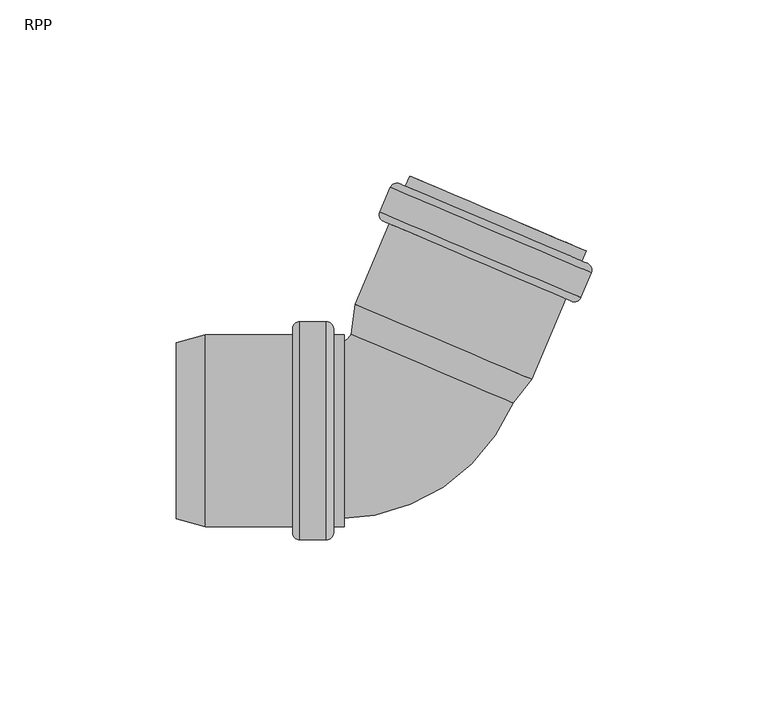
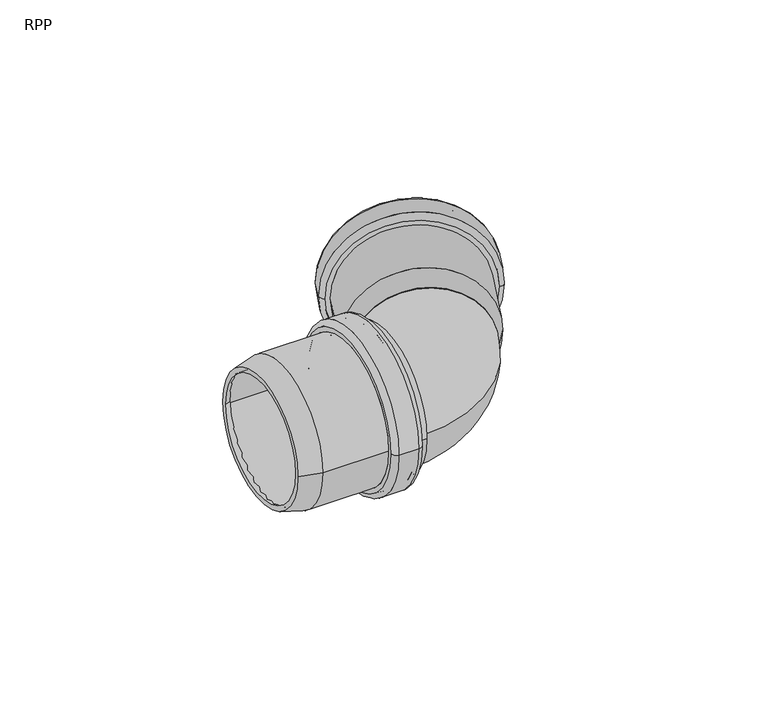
"""IFC4 building model written with IfcOpenShell, lengths in millimetres: pipe fitting geometry, RAUPIANO PLUS Bend : RPP."""

from ifc_helpers import new_model, si_unit, point, frame, origin, place, context, project, spatial, polyline, circle_curve, ellipse_curve, trimmed, source, transform, mapped, element, save
from ifc_brep_helpers import plane_surface, cylinder_surface, revolved_surface, advanced_brep


def rpp_47b7cab4(model_context):
    return source(origin(), model_context, "Body", "AdvancedBrep", [
        advanced_brep(
        [(-30.1946813, -25.3, 0.0), (-30.1946813, 25.3, 0.0), (-56.7340298, 25.3, 0.0), (-56.7340298, -25.3, 0.0), (-29.6946813, -29.1, 0.0), (-29.6946813, 29.1, 0.0), (-30.1946813, 28.6, 0.0), (-30.1946813, -28.6, 0.0), (-22.8946813, -29.1, 0.0), (-22.8946813, 29.1, 0.0), (-22.3946813, -28.6, 0.0), (-22.3946813, 28.6, 0.0), (-17.3946813, -25.3, 0.0), (-17.3946813, 25.3, 0.0), (-22.3946813, 25.3, 0.0), (-22.3946813, -25.3, 0.0), (-20.4946813, -27.2, 0.0), (-20.4946813, 27.2, 0.0), (-17.3946813, 27.2, 0.0), (-17.3946813, -27.2, 0.0), (-22.4946813, -31.0, 0.0), (-22.4946813, 31.0, 0.0), (-20.4946813, 29.0, 0.0), (-20.4946813, -29.0, 0.0), (-30.0946813, -31.0, 0.0), (-30.0946813, 31.0, 0.0), (-32.0946813, -29.0, 0.0), (-32.0946813, 29.0, 0.0), (-56.9841695, -27.2, 0.0), (-56.9841695, 27.2, 0.0), (-32.0946813, 27.2, 0.0), (-32.0946813, -27.2, 0.0), (-65.1946813, -25.0, 0.0), (-65.1946813, 25.0, 0.0), (-65.1946813, 23.0329753, 0.0), (-65.1946813, -23.0329753, 0.0)],
        [
            (0, 1, circle_curve(frame((-30.1946813, 0.0, 0.0), z_axis=(1.0, 0.0, 0.0), x_axis=(0.0, 1.0, 0.0)), 25.3)),
            (1, 2),
            (2, 3, circle_curve(frame((-56.7340298, 0.0, 0.0), z_axis=(-1.0, 0.0, 0.0), x_axis=(0.0, 1.0, 0.0)), 25.3)),
            (3, 0),
            (4, 5, circle_curve(frame((-29.6946813, 0.0, 0.0), z_axis=(1.0, 0.0, 0.0), x_axis=(0.0, 1.0, 0.0)), 29.1)),
            (5, 6, circle_curve(frame((-29.6946813, 28.6, 0.0), z_axis=(0.0, 0.0, 1.0), x_axis=(0.0, -1.0, 0.0)), 0.5)),
            (6, 7, circle_curve(frame((-30.1946813, 0.0, 0.0), z_axis=(-1.0, 0.0, 0.0), x_axis=(0.0, 1.0, 0.0)), 28.6)),
            (7, 4, circle_curve(frame((-29.6946813, -28.6, 0.0), z_axis=(0.0, 0.0, 1.0), x_axis=(0.0, 1.0, 0.0)), 0.5)),
            (8, 9, circle_curve(frame((-22.8946813, 0.0, 0.0), z_axis=(1.0, 0.0, 0.0), x_axis=(0.0, 1.0, 0.0)), 29.1)),
            (9, 5),
            (4, 8),
            (10, 11, circle_curve(frame((-22.3946813, 0.0, 0.0), z_axis=(1.0, 0.0, 0.0), x_axis=(0.0, 1.0, 0.0)), 28.6)),
            (11, 9, circle_curve(frame((-22.8946813, 28.6, 0.0), z_axis=(0.0, 0.0, 1.0), x_axis=(0.0, -1.0, 0.0)), 0.5)),
            (8, 10, circle_curve(frame((-22.8946813, -28.6, 0.0), z_axis=(0.0, 0.0, 1.0), x_axis=(0.0, 1.0, 0.0)), 0.5)),
            (12, 13, circle_curve(frame((-17.3946813, 0.0, 0.0), z_axis=(1.0, 0.0, 0.0), x_axis=(0.0, 1.0, 0.0)), 25.3)),
            (13, 14),
            (14, 15, circle_curve(frame((-22.3946813, 0.0, 0.0), z_axis=(-1.0, 0.0, 0.0), x_axis=(0.0, 1.0, 0.0)), 25.3)),
            (15, 12),
            (16, 17, circle_curve(frame((-20.4946813, 0.0, 0.0), z_axis=(1.0, 0.0, 0.0), x_axis=(0.0, 1.0, 0.0)), 27.2)),
            (17, 18),
            (18, 19, circle_curve(frame((-17.3946813, 0.0, 0.0), z_axis=(-1.0, 0.0, 0.0), x_axis=(0.0, 1.0, 0.0)), 27.2)),
            (19, 16),
            (20, 21, circle_curve(frame((-22.4946813, 0.0, 0.0), z_axis=(1.0, 0.0, 0.0), x_axis=(0.0, 1.0, 0.0)), 31.0)),
            (21, 22, circle_curve(frame((-22.4946813, 29.0, 0.0), z_axis=(0.0, 0.0, -1.0), x_axis=(0.0, -1.0, 0.0)), 2.0)),
            (22, 23, circle_curve(frame((-20.4946813, 0.0, 0.0), z_axis=(-1.0, 0.0, 0.0), x_axis=(0.0, 1.0, 0.0)), 29.0)),
            (23, 20, circle_curve(frame((-22.4946813, -29.0, 0.0), z_axis=(0.0, 0.0, -1.0), x_axis=(0.0, 1.0, 0.0)), 2.0)),
            (24, 25, circle_curve(frame((-30.0946813, 0.0, 0.0), z_axis=(1.0, 0.0, 0.0), x_axis=(0.0, 1.0, 0.0)), 31.0)),
            (25, 21),
            (20, 24),
            (26, 27, circle_curve(frame((-32.0946813, 0.0, 0.0), z_axis=(1.0, 0.0, 0.0), x_axis=(0.0, 1.0, 0.0)), 29.0)),
            (27, 25, circle_curve(frame((-30.0946813, 29.0, 0.0), z_axis=(0.0, 0.0, -1.0), x_axis=(0.0, -1.0, 0.0)), 2.0)),
            (24, 26, circle_curve(frame((-30.0946813, -29.0, 0.0), z_axis=(0.0, 0.0, -1.0), x_axis=(0.0, 1.0, 0.0)), 2.0)),
            (28, 29, circle_curve(frame((-56.9841695, 0.0, 0.0), z_axis=(1.0, 0.0, 0.0), x_axis=(0.0, 1.0, 0.0)), 27.2)),
            (29, 30),
            (30, 31, circle_curve(frame((-32.0946813, 0.0, 0.0), z_axis=(-1.0, 0.0, 0.0), x_axis=(0.0, 1.0, 0.0)), 27.2)),
            (31, 28),
            (32, 33, circle_curve(frame((-65.1946813, 0.0, 0.0), z_axis=(1.0, 0.0, 0.0), x_axis=(0.0, 1.0, 0.0)), 25.0)),
            (33, 29),
            (28, 32),
            (2, 34),
            (34, 35, circle_curve(frame((-65.1946813, 0.0, 0.0), z_axis=(-1.0, 0.0, 0.0), x_axis=(0.0, 1.0, 0.0)), 23.0329753)),
            (35, 3),
            (1, 0, circle_curve(frame((-30.1946813, 0.0, 0.0), z_axis=(1.0, 0.0, 0.0), x_axis=(0.0, -1.0, 0.0)), 25.3)),
            (3, 2, circle_curve(frame((-56.7340298, 0.0, 0.0), z_axis=(-1.0, 0.0, 0.0), x_axis=(0.0, -1.0, 0.0)), 25.3)),
            (6, 7, circle_curve(frame((-30.1946813, 0.0, 0.0), z_axis=(1.0, 0.0, 0.0), x_axis=(0.0, -1.0, 0.0)), 28.6)),
            (5, 4, circle_curve(frame((-29.6946813, 0.0, 0.0), z_axis=(1.0, 0.0, 0.0), x_axis=(0.0, -1.0, 0.0)), 29.1)),
            (9, 8, circle_curve(frame((-22.8946813, 0.0, 0.0), z_axis=(1.0, 0.0, 0.0), x_axis=(0.0, -1.0, 0.0)), 29.1)),
            (11, 10, circle_curve(frame((-22.3946813, 0.0, 0.0), z_axis=(1.0, 0.0, 0.0), x_axis=(0.0, -1.0, 0.0)), 28.6)),
            (14, 15, circle_curve(frame((-22.3946813, 0.0, 0.0), z_axis=(1.0, 0.0, 0.0), x_axis=(0.0, -1.0, 0.0)), 25.3)),
            (13, 12, circle_curve(frame((-17.3946813, 0.0, 0.0), z_axis=(1.0, 0.0, 0.0), x_axis=(0.0, -1.0, 0.0)), 25.3)),
            (18, 19, circle_curve(frame((-17.3946813, 0.0, 0.0), z_axis=(1.0, 0.0, 0.0), x_axis=(0.0, -1.0, 0.0)), 27.2)),
            (17, 16, circle_curve(frame((-20.4946813, 0.0, 0.0), z_axis=(1.0, 0.0, 0.0), x_axis=(0.0, -1.0, 0.0)), 27.2)),
            (22, 23, circle_curve(frame((-20.4946813, 0.0, 0.0), z_axis=(1.0, 0.0, 0.0), x_axis=(0.0, -1.0, 0.0)), 29.0)),
            (21, 20, circle_curve(frame((-22.4946813, 0.0, 0.0), z_axis=(1.0, 0.0, 0.0), x_axis=(0.0, -1.0, 0.0)), 31.0)),
            (25, 24, circle_curve(frame((-30.0946813, 0.0, 0.0), z_axis=(1.0, 0.0, 0.0), x_axis=(0.0, -1.0, 0.0)), 31.0)),
            (27, 26, circle_curve(frame((-32.0946813, 0.0, 0.0), z_axis=(1.0, 0.0, 0.0), x_axis=(0.0, -1.0, 0.0)), 29.0)),
            (30, 31, circle_curve(frame((-32.0946813, 0.0, 0.0), z_axis=(1.0, 0.0, 0.0), x_axis=(0.0, -1.0, 0.0)), 27.2)),
            (29, 28, circle_curve(frame((-56.9841695, 0.0, 0.0), z_axis=(1.0, 0.0, 0.0), x_axis=(0.0, -1.0, 0.0)), 27.2)),
            (33, 32, circle_curve(frame((-65.1946813, 0.0, 0.0), z_axis=(1.0, 0.0, 0.0), x_axis=(0.0, -1.0, 0.0)), 25.0)),
            (34, 35, circle_curve(frame((-65.1946813, 0.0, 0.0), z_axis=(1.0, 0.0, 0.0), x_axis=(0.0, -1.0, 0.0)), 23.0329753)),
        ],
        [
            revolved_surface(polyline([(-56.7340298, 25.3, 0.0), (-30.1946813, 25.3, 0.0)]), (-65.1946813, 0.0, 0.0), (-1.0, 0.0, 0.0)),
            revolved_surface(trimmed(ellipse_curve(frame((-29.6946813, 28.6, 0.0), z_axis=(0.0, 0.0, -1.0), x_axis=(0.0, -1.0, 0.0)), 0.5, 0.5), [point((-30.1946813, 28.6, 0.0))], [point((-29.6946813, 29.1, 0.0))], True, "CARTESIAN"), (-65.1946813, 0.0, 0.0), (-1.0, 0.0, 0.0)),
            revolved_surface(polyline([(-29.6946813, 29.1, 0.0), (-22.894681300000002, 29.1, 0.0)]), (-65.1946813, 0.0, 0.0), (-1.0, 0.0, 0.0)),
            revolved_surface(trimmed(ellipse_curve(frame((-22.8946813, 28.6, 0.0), z_axis=(0.0, 0.0, -1.0), x_axis=(0.0, -1.0, 0.0)), 0.5, 0.5), [point((-22.8946813, 29.1, 0.0))], [point((-22.3946813, 28.6, 0.0))], True, "CARTESIAN"), (-65.1946813, 0.0, 0.0), (-1.0, 0.0, 0.0)),
            revolved_surface(polyline([(-22.394681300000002, 25.3, 0.0), (-17.394681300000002, 25.3, 0.0)]), (-65.1946813, 0.0, 0.0), (-1.0, 0.0, 0.0)),
            cylinder_surface(frame((-65.1946813, 0.0, 0.0), z_axis=(-1.0, 0.0, 0.0), x_axis=(0.0, 1.0, 0.0)), 27.2),
            revolved_surface(trimmed(ellipse_curve(frame((-22.4946813, 29.0, 0.0), z_axis=(0.0, 0.0, 1.0), x_axis=(0.0, -1.0, 0.0)), 2.0, 2.0), [point((-20.4946813, 29.0, 0.0))], [point((-22.4946813, 31.0, 0.0))], True, "CARTESIAN"), (-65.1946813, 0.0, 0.0), (-1.0, 0.0, 0.0)),
            cylinder_surface(frame((-65.1946813, 0.0, 0.0), z_axis=(-1.0, 0.0, 0.0), x_axis=(0.0, 1.0, 0.0)), 31.0),
            revolved_surface(trimmed(ellipse_curve(frame((-30.0946813, 29.0, 0.0), z_axis=(0.0, 0.0, 1.0), x_axis=(0.0, -1.0, 0.0)), 2.0, 2.0), [point((-30.0946813, 31.0, 0.0))], [point((-32.0946813, 29.0, 0.0))], True, "CARTESIAN"), (-65.1946813, 0.0, 0.0), (-1.0, 0.0, 0.0)),
            revolved_surface(polyline([(-56.9841695, 27.2, 0.0), (-65.1946813, 25.0, 0.0)]), (-65.1946813, 0.0, 0.0), (-1.0, 0.0, 0.0)),
            revolved_surface(polyline([(-65.1946813, 23.0329753, 0.0), (-56.7340298, 25.3, 0.0)]), (-65.1946813, 0.0, 0.0), (-1.0, 0.0, 0.0)),
            revolved_surface(polyline([(-56.7340298, -25.3, 0.0), (-30.1946813, -25.3, 0.0)]), (-65.1946813, 0.0, 0.0), (-1.0, 0.0, 0.0)),
            plane_surface(frame((-30.1946813, 0.0, 0.0), z_axis=(1.0, 0.0, 0.0), x_axis=(0.0, -1.0, 0.0))),
            revolved_surface(trimmed(ellipse_curve(frame((-29.6946813, -28.6, 0.0), z_axis=(0.0, 0.0, 1.0), x_axis=(0.0, 1.0, 0.0)), 0.5, 0.5), [point((-30.1946813, -28.6, 0.0))], [point((-29.6946813, -29.1, 0.0))], True, "CARTESIAN"), (-65.1946813, 0.0, 0.0), (-1.0, 0.0, 0.0)),
            revolved_surface(polyline([(-29.6946813, -29.1, 0.0), (-22.894681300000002, -29.1, 0.0)]), (-65.1946813, 0.0, 0.0), (-1.0, 0.0, 0.0)),
            revolved_surface(trimmed(ellipse_curve(frame((-22.8946813, -28.6, 0.0), z_axis=(0.0, 0.0, 1.0), x_axis=(0.0, 1.0, 0.0)), 0.5, 0.5), [point((-22.8946813, -29.1, 0.0))], [point((-22.3946813, -28.6, 0.0))], True, "CARTESIAN"), (-65.1946813, 0.0, 0.0), (-1.0, 0.0, 0.0)),
            plane_surface(frame((-22.3946813, 0.0, 0.0), z_axis=(-1.0, 0.0, 0.0), x_axis=(0.0, -1.0, 0.0))),
            revolved_surface(polyline([(-22.394681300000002, -25.3, 0.0), (-17.394681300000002, -25.3, 0.0)]), (-65.1946813, 0.0, 0.0), (-1.0, 0.0, 0.0)),
            plane_surface(frame((-17.3946813, 0.0, 0.0), z_axis=(1.0, 0.0, 0.0), x_axis=(0.0, -1.0, 0.0))),
            cylinder_surface(frame((-65.1946813, 0.0, 0.0), z_axis=(-1.0, 0.0, 0.0), x_axis=(0.0, -1.0, 0.0)), 27.2),
            plane_surface(frame((-20.4946813, 0.0, 0.0), z_axis=(1.0, 0.0, 0.0), x_axis=(0.0, -1.0, 0.0))),
            revolved_surface(trimmed(ellipse_curve(frame((-22.4946813, -29.0, 0.0), z_axis=(0.0, 0.0, -1.0), x_axis=(0.0, 1.0, 0.0)), 2.0, 2.0), [point((-20.4946813, -29.0, 0.0))], [point((-22.4946813, -31.0, 0.0))], True, "CARTESIAN"), (-65.1946813, 0.0, 0.0), (-1.0, 0.0, 0.0)),
            cylinder_surface(frame((-65.1946813, 0.0, 0.0), z_axis=(-1.0, 0.0, 0.0), x_axis=(0.0, -1.0, 0.0)), 31.0),
            revolved_surface(trimmed(ellipse_curve(frame((-30.0946813, -29.0, 0.0), z_axis=(0.0, 0.0, -1.0), x_axis=(0.0, 1.0, 0.0)), 2.0, 2.0), [point((-30.0946813, -31.0, 0.0))], [point((-32.0946813, -29.0, 0.0))], True, "CARTESIAN"), (-65.1946813, 0.0, 0.0), (-1.0, 0.0, 0.0)),
            plane_surface(frame((-32.0946813, 0.0, 0.0), z_axis=(-1.0, 0.0, 0.0), x_axis=(0.0, -1.0, 0.0))),
            revolved_surface(polyline([(-56.9841695, -27.2, 0.0), (-65.1946813, -25.0, 0.0)]), (-65.1946813, 0.0, 0.0), (-1.0, 0.0, 0.0)),
            plane_surface(frame((-65.1946813, 0.0, 0.0), z_axis=(-1.0, 0.0, 0.0), x_axis=(0.0, -1.0, 0.0))),
            revolved_surface(polyline([(-65.1946813, -23.0329753, 0.0), (-56.7340298, -25.3, 0.0)]), (-65.1946813, 0.0, 0.0), (-1.0, 0.0, 0.0)),
        ],
        [
            (0, [[1, 2, 3, 4]]),
            (1, [[5, 6, 7, 8]]),
            (2, [[9, 10, -5, 11]]),
            (3, [[12, 13, -9, 14]]),
            (4, [[15, 16, 17, 18]]),
            (5, [[19, 20, 21, 22]]),
            (6, [[23, 24, 25, 26]]),
            (7, [[27, 28, -23, 29]]),
            (8, [[30, 31, -27, 32]]),
            (5, [[33, 34, 35, 36]]),
            (9, [[37, 38, -33, 39]]),
            (10, [[-3, 40, 41, 42]]),
            (11, [[43, -4, 44, -2]]),
            (12, [[45, -7], [-43, -1]]),
            (13, [[46, -8, -45, -6]]),
            (14, [[47, -11, -46, -10]]),
            (15, [[48, -14, -47, -13]]),
            (16, [[-48, -12], [49, -17]]),
            (17, [[50, -18, -49, -16]]),
            (18, [[51, -21], [-50, -15]]),
            (19, [[52, -22, -51, -20]]),
            (20, [[53, -25], [-52, -19]]),
            (21, [[54, -26, -53, -24]]),
            (22, [[55, -29, -54, -28]]),
            (23, [[56, -32, -55, -31]]),
            (24, [[-56, -30], [57, -35]]),
            (19, [[58, -36, -57, -34]]),
            (25, [[59, -39, -58, -38]]),
            (26, [[-59, -37], [60, -41]]),
            (27, [[-44, -42, -60, -40]]),
        ],
    ),
        advanced_brep(
        [(28.701925, 8.6690969, 0.0), (-13.702006, 26.6684977, 0.0), (-12.4829734, 35.3423656, 0.0), (34.0945722, 15.5713705, 0.0), (35.745794, 14.5987265, 0.0), (-14.32967, 35.8544999, 0.0), (-15.5126619, 27.4370755, 0.0), (30.5125808, 7.9005191, 0.0), (45.4708918, 37.5096212, 0.0), (-4.6045722, 58.7653946, 0.0), (52.7198291, 44.8616895, 0.0), (-4.3514718, 69.0870195, 0.0), (-7.3210284, 62.0911826, 0.0), (49.7502725, 37.8658526, 0.0), (51.2146394, 51.0410426, 0.0), (1.1391754, 72.296816, 0.0), (-0.0720911, 69.4432509, 0.0), (50.0033729, 48.1874775, 0.0), (47.5120246, 47.1809075, 0.0), (0.934479, 66.9519026, 0.0), (2.8881346, 71.5544268, 0.0), (49.4656802, 51.7834317, 0.0), (48.1576058, 38.9764437, 0.0), (-5.4157767, 61.7169954, 0.0), (-2.758805, 67.9764284, 0.0), (50.8145774, 45.2358767, 0.0), (-2.1132238, 59.7719647, 0.0), (44.4643218, 40.0009696, 0.0), (-6.2614809, 59.4687106, 0.0), (47.1278006, 36.8063052, 0.0), (51.6602817, 47.4841615, 0.0), (-1.7289998, 70.1465669, 0.0), (-2.103187, 68.2413153, 0.0), (50.5496906, 45.8914947, 0.0), (47.5019878, 38.7115569, 0.0), (-5.1508898, 61.0613774, 0.0)],
        [
            (0, 1, circle_curve(frame((7.4999595, 17.6687973, 0.0), z_axis=(-0.39073112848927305, -0.9205048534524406, 0.0), x_axis=(-0.9205048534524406, 0.39073112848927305, 0.0)), 23.0329753)),
            (1, 2),
            (2, 3, circle_curve(frame((10.8057994, 25.4568681, 0.0), z_axis=(0.39073112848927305, 0.9205048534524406, 0.0), x_axis=(-0.9205048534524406, 0.39073112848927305, 0.0)), 25.3)),
            (3, 0),
            (4, 5, circle_curve(frame((10.708062, 25.2266132, 0.0), z_axis=(-0.39073112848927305, -0.9205048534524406, 0.0), x_axis=(-0.9205048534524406, 0.39073112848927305, 0.0)), 27.2)),
            (5, 6),
            (6, 7, circle_curve(frame((7.4999595, 17.6687973, 0.0), z_axis=(0.39073112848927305, 0.9205048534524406, 0.0), x_axis=(-0.9205048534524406, 0.39073112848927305, 0.0)), 25.0)),
            (7, 4),
            (8, 9, circle_curve(frame((20.4331598, 48.1375079, 0.0), z_axis=(-0.39073112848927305, -0.9205048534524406, 0.0), x_axis=(-0.9205048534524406, 0.39073112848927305, 0.0)), 27.2)),
            (9, 5),
            (4, 8),
            (10, 11, circle_curve(frame((24.1841787, 56.9743545, 0.0), z_axis=(-0.39073112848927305, -0.9205048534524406, 0.0), x_axis=(-0.9205048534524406, 0.39073112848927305, 0.0)), 31.0)),
            (11, 12),
            (12, 13, circle_curve(frame((21.2146221, 49.9785176, 0.0), z_axis=(0.39073112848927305, 0.9205048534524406, 0.0), x_axis=(-0.9205048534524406, 0.39073112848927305, 0.0)), 31.0)),
            (13, 10),
            (14, 15, circle_curve(frame((26.1769074, 61.6689293, 0.0), z_axis=(-0.39073112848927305, -0.9205048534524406, 0.0), x_axis=(-0.9205048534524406, 0.39073112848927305, 0.0)), 27.2)),
            (15, 16),
            (16, 17, circle_curve(frame((24.9656409, 58.8153642, 0.0), z_axis=(0.39073112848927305, 0.9205048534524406, 0.0), x_axis=(-0.9205048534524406, 0.39073112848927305, 0.0)), 27.2)),
            (17, 14),
            (18, 19, circle_curve(frame((24.2232518, 57.066405, 0.0), z_axis=(-0.39073112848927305, -0.9205048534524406, 0.0), x_axis=(-0.9205048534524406, 0.39073112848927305, 0.0)), 25.3)),
            (19, 20),
            (20, 21, circle_curve(frame((26.1769074, 61.6689293, 0.0), z_axis=(0.39073112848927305, 0.9205048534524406, 0.0), x_axis=(-0.9205048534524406, 0.39073112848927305, 0.0)), 25.3)),
            (21, 18),
            (22, 23, circle_curve(frame((21.3709145, 50.3467196, 0.0), z_axis=(-0.39073112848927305, -0.9205048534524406, 0.0), x_axis=(-0.9205048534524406, 0.39073112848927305, 0.0)), 29.1)),
            (23, 24),
            (24, 25, circle_curve(frame((24.0278862, 56.6061526, 0.0), z_axis=(0.39073112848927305, 0.9205048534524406, 0.0), x_axis=(-0.9205048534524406, 0.39073112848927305, 0.0)), 29.1)),
            (25, 22),
            (2, 26),
            (26, 27, circle_curve(frame((21.175549, 49.8864671, 0.0), z_axis=(0.39073112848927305, 0.9205048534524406, 0.0), x_axis=(-0.9205048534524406, 0.39073112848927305, 0.0)), 25.3)),
            (27, 3),
            (1, 0, circle_curve(frame((7.4999595, 17.6687973, 0.0), z_axis=(-0.39073112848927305, -0.9205048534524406, 0.0), x_axis=(0.9205048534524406, -0.39073112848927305, 0.0)), 23.0329753)),
            (3, 2, circle_curve(frame((10.8057994, 25.4568681, 0.0), z_axis=(0.39073112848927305, 0.9205048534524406, 0.0), x_axis=(0.9205048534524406, -0.39073112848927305, 0.0)), 25.3)),
            (6, 7, circle_curve(frame((7.4999595, 17.6687973, 0.0), z_axis=(-0.39073112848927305, -0.9205048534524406, 0.0), x_axis=(0.9205048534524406, -0.39073112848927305, 0.0)), 25.0)),
            (5, 4, circle_curve(frame((10.708062, 25.2266132, 0.0), z_axis=(-0.39073112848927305, -0.9205048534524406, 0.0), x_axis=(0.9205048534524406, -0.39073112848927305, 0.0)), 27.2)),
            (9, 8, circle_curve(frame((20.4331598, 48.1375079, 0.0), z_axis=(-0.39073112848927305, -0.9205048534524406, 0.0), x_axis=(0.9205048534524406, -0.39073112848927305, 0.0)), 27.2)),
            (28, 29, circle_curve(frame((20.4331598, 48.1375079, 0.0), z_axis=(-0.39073112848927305, -0.9205048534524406, 0.0), x_axis=(0.9205048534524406, -0.39073112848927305, 0.0)), 29.0)),
            (29, 28, circle_curve(frame((20.4331598, 48.1375079, 0.0), z_axis=(-0.39073112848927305, -0.9205048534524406, 0.0), x_axis=(-0.9205048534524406, 0.39073112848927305, 0.0)), 29.0)),
            (11, 10, circle_curve(frame((24.1841787, 56.9743545, 0.0), z_axis=(-0.39073112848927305, -0.9205048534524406, 0.0), x_axis=(0.9205048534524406, -0.39073112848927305, 0.0)), 31.0)),
            (13, 12, circle_curve(frame((21.2146221, 49.9785176, 0.0), z_axis=(0.39073112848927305, 0.9205048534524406, 0.0), x_axis=(0.9205048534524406, -0.39073112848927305, 0.0)), 31.0)),
            (30, 31, circle_curve(frame((24.9656409, 58.8153642, 0.0), z_axis=(0.39073112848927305, 0.9205048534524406, 0.0), x_axis=(0.9205048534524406, -0.39073112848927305, 0.0)), 29.0)),
            (31, 30, circle_curve(frame((24.9656409, 58.8153642, 0.0), z_axis=(0.39073112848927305, 0.9205048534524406, 0.0), x_axis=(-0.9205048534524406, 0.39073112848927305, 0.0)), 29.0)),
            (16, 17, circle_curve(frame((24.9656409, 58.8153642, 0.0), z_axis=(-0.39073112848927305, -0.9205048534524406, 0.0), x_axis=(0.9205048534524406, -0.39073112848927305, 0.0)), 27.2)),
            (15, 14, circle_curve(frame((26.1769074, 61.6689293, 0.0), z_axis=(-0.39073112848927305, -0.9205048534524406, 0.0), x_axis=(0.9205048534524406, -0.39073112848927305, 0.0)), 27.2)),
            (20, 21, circle_curve(frame((26.1769074, 61.6689293, 0.0), z_axis=(-0.39073112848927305, -0.9205048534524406, 0.0), x_axis=(0.9205048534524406, -0.39073112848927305, 0.0)), 25.3)),
            (19, 18, circle_curve(frame((24.2232518, 57.066405, 0.0), z_axis=(-0.39073112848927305, -0.9205048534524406, 0.0), x_axis=(0.9205048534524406, -0.39073112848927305, 0.0)), 25.3)),
            (32, 33, circle_curve(frame((24.2232518, 57.066405, 0.0), z_axis=(-0.39073112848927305, -0.9205048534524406, 0.0), x_axis=(0.9205048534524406, -0.39073112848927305, 0.0)), 28.6)),
            (33, 32, circle_curve(frame((24.2232518, 57.066405, 0.0), z_axis=(-0.39073112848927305, -0.9205048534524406, 0.0), x_axis=(-0.9205048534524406, 0.39073112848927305, 0.0)), 28.6)),
            (23, 22, circle_curve(frame((21.3709145, 50.3467196, 0.0), z_axis=(-0.39073112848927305, -0.9205048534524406, 0.0), x_axis=(0.9205048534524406, -0.39073112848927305, 0.0)), 29.1)),
            (25, 24, circle_curve(frame((24.0278862, 56.6061526, 0.0), z_axis=(0.39073112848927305, 0.9205048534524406, 0.0), x_axis=(0.9205048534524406, -0.39073112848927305, 0.0)), 29.1)),
            (34, 35, circle_curve(frame((21.175549, 49.8864671, 0.0), z_axis=(0.39073112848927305, 0.9205048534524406, 0.0), x_axis=(0.9205048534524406, -0.39073112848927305, 0.0)), 28.6)),
            (35, 34, circle_curve(frame((21.175549, 49.8864671, 0.0), z_axis=(0.39073112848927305, 0.9205048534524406, 0.0), x_axis=(-0.9205048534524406, 0.39073112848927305, 0.0)), 28.6)),
            (26, 27, circle_curve(frame((21.175549, 49.8864671, 0.0), z_axis=(-0.39073112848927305, -0.9205048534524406, 0.0), x_axis=(0.9205048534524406, -0.39073112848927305, 0.0)), 25.3)),
            (12, 28, circle_curve(frame((-5.4800187, 61.3097204, 0.0), z_axis=(0.0, 0.0, 1.0), x_axis=(0.9205048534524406, -0.39073112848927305, 0.0)), 2.0)),
            (29, 13, circle_curve(frame((47.9092628, 38.6473149, 0.0), z_axis=(0.0, 0.0, 1.0), x_axis=(-0.9205048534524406, 0.39073112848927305, 0.0)), 2.0)),
            (31, 11, circle_curve(frame((-2.5104621, 68.3055572, 0.0), z_axis=(0.0, 0.0, 1.0), x_axis=(0.9205048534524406, -0.39073112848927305, 0.0)), 2.0)),
            (10, 30, circle_curve(frame((50.8788194, 45.6431518, 0.0), z_axis=(0.0, 0.0, 1.0), x_axis=(-0.9205048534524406, 0.39073112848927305, 0.0)), 2.0)),
            (24, 32, circle_curve(frame((-2.2985526, 67.7810628, 0.0), z_axis=(0.0, 0.0, -1.0), x_axis=(0.9205048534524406, -0.39073112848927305, 0.0)), 0.5)),
            (33, 25, circle_curve(frame((50.354325, 45.4312423, 0.0), z_axis=(0.0, 0.0, -1.0), x_axis=(-0.9205048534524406, 0.39073112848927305, 0.0)), 0.5)),
            (35, 23, circle_curve(frame((-4.9555243, 61.5216298, 0.0), z_axis=(0.0, 0.0, -1.0), x_axis=(0.9205048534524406, -0.39073112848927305, 0.0)), 0.5)),
            (22, 34, circle_curve(frame((47.6973533, 39.1718093, 0.0), z_axis=(0.0, 0.0, -1.0), x_axis=(-0.9205048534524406, 0.39073112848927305, 0.0)), 0.5)),
        ],
        [
            revolved_surface(polyline([(-12.4829734, 35.3423656, 0.0), (-13.702006, 26.6684977, 0.0)]), (7.4999595, 17.6687973, 0.0), (0.39073112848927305, 0.9205048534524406, 0.0)),
            revolved_surface(polyline([(-15.5126619, 27.4370755, 0.0), (-14.32967, 35.8544999, 0.0)]), (7.4999595, 17.6687973, 0.0), (0.39073112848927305, 0.9205048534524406, 0.0)),
            cylinder_surface(frame((7.4999595, 17.6687973, 0.0), z_axis=(0.39073112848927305, 0.9205048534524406, 0.0), x_axis=(-0.9205048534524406, 0.39073112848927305, 0.0)), 27.2),
            cylinder_surface(frame((7.4999595, 17.6687973, 0.0), z_axis=(0.39073112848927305, 0.9205048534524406, 0.0), x_axis=(-0.9205048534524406, 0.39073112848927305, 0.0)), 31.0),
            revolved_surface(polyline([(2.8881346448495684, 71.5544268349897, 0.0), (0.9344789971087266, 66.95190255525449, 0.0)]), (7.4999595, 17.6687973, 0.0), (0.39073112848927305, 0.9205048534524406, 0.0)),
            revolved_surface(polyline([(-2.758805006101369, 67.97642842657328, 0.0), (-5.41577669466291, 61.716995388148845, 0.0)]), (7.4999595, 17.6687973, 0.0), (0.39073112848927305, 0.9205048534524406, 0.0)),
            revolved_surface(polyline([(-2.113223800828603, 59.77196470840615, 0.0), (-12.482973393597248, 35.342365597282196, 0.0)]), (7.4999595, 17.6687973, 0.0), (0.39073112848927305, 0.9205048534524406, 0.0)),
            revolved_surface(polyline([(34.0945722, 15.5713705, 0.0), (28.701925, 8.6690969, 0.0)]), (7.4999595, 17.6687973, 0.0), (0.39073112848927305, 0.9205048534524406, 0.0)),
            plane_surface(frame((7.4999595, 17.6687973, 0.0), z_axis=(-0.39073112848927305, -0.9205048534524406, 0.0), x_axis=(0.9205048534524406, -0.39073112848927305, 0.0))),
            revolved_surface(polyline([(30.5125808, 7.9005191, 0.0), (35.745794, 14.5987265, 0.0)]), (7.4999595, 17.6687973, 0.0), (0.39073112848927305, 0.9205048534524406, 0.0)),
            cylinder_surface(frame((7.4999595, 17.6687973, 0.0), z_axis=(0.39073112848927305, 0.9205048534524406, 0.0), x_axis=(0.9205048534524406, -0.39073112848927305, 0.0)), 27.2),
            plane_surface(frame((20.4331598, 48.1375079, 0.0), z_axis=(-0.39073112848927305, -0.9205048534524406, 0.0), x_axis=(0.9205048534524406, -0.39073112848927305, 0.0))),
            cylinder_surface(frame((7.4999595, 17.6687973, 0.0), z_axis=(0.39073112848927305, 0.9205048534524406, 0.0), x_axis=(0.9205048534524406, -0.39073112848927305, 0.0)), 31.0),
            plane_surface(frame((24.9656409, 58.8153642, 0.0), z_axis=(0.39073112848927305, 0.9205048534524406, 0.0), x_axis=(0.9205048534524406, -0.39073112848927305, 0.0))),
            plane_surface(frame((26.1769074, 61.6689293, 0.0), z_axis=(0.39073112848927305, 0.9205048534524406, 0.0), x_axis=(0.9205048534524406, -0.39073112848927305, 0.0))),
            revolved_surface(polyline([(49.46568022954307, 51.78343173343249, 0.0), (47.51202458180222, 47.18090745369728, 0.0)]), (7.4999595, 17.6687973, 0.0), (0.39073112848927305, 0.9205048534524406, 0.0)),
            plane_surface(frame((24.2232518, 57.066405, 0.0), z_axis=(-0.39073112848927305, -0.9205048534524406, 0.0), x_axis=(0.9205048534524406, -0.39073112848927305, 0.0))),
            revolved_surface(polyline([(50.81457746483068, 45.235876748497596, 0.0), (48.157605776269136, 38.976443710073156, 0.0)]), (7.4999595, 17.6687973, 0.0), (0.39073112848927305, 0.9205048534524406, 0.0)),
            plane_surface(frame((21.175549, 49.8864671, 0.0), z_axis=(0.39073112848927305, 0.9205048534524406, 0.0), x_axis=(0.9205048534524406, -0.39073112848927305, 0.0))),
            revolved_surface(polyline([(44.46432178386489, 40.00096960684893, 0.0), (34.09457219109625, 15.571370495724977, 0.0)]), (7.4999595, 17.6687973, 0.0), (0.39073112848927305, 0.9205048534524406, 0.0)),
            revolved_surface(trimmed(ellipse_curve(frame((-5.4800187, 61.3097204, 0.0), z_axis=(0.0, 0.0, -1.0), x_axis=(0.9205048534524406, -0.39073112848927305, 0.0)), 2.0, 2.0), [point((-6.2614809, 59.4687106, 0.0))], [point((-7.3210284, 62.0911826, 0.0))], True, "CARTESIAN"), (7.4999595, 17.6687973, 0.0), (0.39073112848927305, 0.9205048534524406, 0.0)),
            revolved_surface(trimmed(ellipse_curve(frame((-2.5104621, 68.3055572, 0.0), z_axis=(0.0, 0.0, -1.0), x_axis=(0.9205048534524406, -0.39073112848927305, 0.0)), 2.0, 2.0), [point((-4.3514718, 69.0870195, 0.0))], [point((-1.7289998, 70.1465669, 0.0))], True, "CARTESIAN"), (7.4999595, 17.6687973, 0.0), (0.39073112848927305, 0.9205048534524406, 0.0)),
            revolved_surface(trimmed(ellipse_curve(frame((-2.2985526, 67.7810628, 0.0), z_axis=(0.0, 0.0, 1.0), x_axis=(0.9205048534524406, -0.39073112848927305, 0.0)), 0.5, 0.5), [point((-2.103187, 68.2413153, 0.0))], [point((-2.758805, 67.9764284, 0.0))], True, "CARTESIAN"), (7.4999595, 17.6687973, 0.0), (0.39073112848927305, 0.9205048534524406, 0.0)),
            revolved_surface(trimmed(ellipse_curve(frame((-4.9555243, 61.5216298, 0.0), z_axis=(0.0, 0.0, 1.0), x_axis=(0.9205048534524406, -0.39073112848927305, 0.0)), 0.5, 0.5), [point((-5.4157767, 61.7169954, 0.0))], [point((-5.1508898, 61.0613774, 0.0))], True, "CARTESIAN"), (7.4999595, 17.6687973, 0.0), (0.39073112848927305, 0.9205048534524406, 0.0)),
            revolved_surface(trimmed(ellipse_curve(frame((47.9092628, 38.6473149, 0.0), z_axis=(0.0, 0.0, 1.0), x_axis=(-0.9205048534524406, 0.39073112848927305, 0.0)), 2.0, 2.0), [point((47.1278006, 36.8063052, 0.0))], [point((49.7502725, 37.8658526, 0.0))], True, "CARTESIAN"), (7.4999595, 17.6687973, 0.0), (0.39073112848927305, 0.9205048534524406, 0.0)),
            revolved_surface(trimmed(ellipse_curve(frame((50.8788194, 45.6431518, 0.0), z_axis=(0.0, 0.0, 1.0), x_axis=(-0.9205048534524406, 0.39073112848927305, 0.0)), 2.0, 2.0), [point((52.7198291, 44.8616895, 0.0))], [point((51.6602817, 47.4841615, 0.0))], True, "CARTESIAN"), (7.4999595, 17.6687973, 0.0), (0.39073112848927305, 0.9205048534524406, 0.0)),
            revolved_surface(trimmed(ellipse_curve(frame((50.354325, 45.4312423, 0.0), z_axis=(0.0, 0.0, -1.0), x_axis=(-0.9205048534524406, 0.39073112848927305, 0.0)), 0.5, 0.5), [point((50.5496906, 45.8914947, 0.0))], [point((50.8145774, 45.2358767, 0.0))], True, "CARTESIAN"), (7.4999595, 17.6687973, 0.0), (0.39073112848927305, 0.9205048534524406, 0.0)),
            revolved_surface(trimmed(ellipse_curve(frame((47.6973533, 39.1718093, 0.0), z_axis=(0.0, 0.0, -1.0), x_axis=(-0.9205048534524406, 0.39073112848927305, 0.0)), 0.5, 0.5), [point((48.1576058, 38.9764437, 0.0))], [point((47.5019878, 38.7115569, 0.0))], True, "CARTESIAN"), (7.4999595, 17.6687973, 0.0), (0.39073112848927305, 0.9205048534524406, 0.0)),
        ],
        [
            (0, [[1, 2, 3, 4]]),
            (1, [[5, 6, 7, 8]]),
            (2, [[9, 10, -5, 11]]),
            (3, [[12, 13, 14, 15]]),
            (2, [[16, 17, 18, 19]]),
            (4, [[20, 21, 22, 23]]),
            (5, [[24, 25, 26, 27]]),
            (6, [[-3, 28, 29, 30]]),
            (7, [[31, -4, 32, -2]]),
            (8, [[33, -7], [-31, -1]]),
            (9, [[34, -8, -33, -6]]),
            (10, [[35, -11, -34, -10]]),
            (11, [[36, 37], [-35, -9]]),
            (12, [[38, -15, 39, -13]]),
            (13, [[40, 41], [42, -18]]),
            (10, [[43, -19, -42, -17]]),
            (14, [[-43, -16], [44, -22]]),
            (15, [[45, -23, -44, -21]]),
            (16, [[46, 47], [-45, -20]]),
            (17, [[48, -27, 49, -25]]),
            (18, [[50, 51], [52, -29]]),
            (19, [[-32, -30, -52, -28]]),
            (20, [[-14, 53, -37, 54]]),
            (21, [[-41, 55, -12, 56]]),
            (22, [[-26, 57, -47, 58]]),
            (23, [[-51, 59, -24, 60]]),
            (24, [[-39, -54, -36, -53]]),
            (25, [[-40, -56, -38, -55]]),
            (26, [[-49, -58, -46, -57]]),
            (27, [[-50, -60, -48, -59]]),
        ],
    ),
        advanced_brep(
        [(-19.1946813, 23.2, 0.0), (-19.1946813, -23.2, 0.0), (-65.1946813, -23.2, 0.0), (-65.1946813, 23.2, 0.0), (-61.4626305, 25.0, 0.0), (-61.4626305, -25.0, 0.0), (-19.1946813, -25.0, 0.0), (-19.1946813, 25.0, 0.0), (-65.1946813, 24.0, 0.0), (-65.1946813, -24.0, 0.0)],
        [
            (0, 1, circle_curve(frame((-19.1946813, 0.0, 0.0), z_axis=(1.0, 0.0, 0.0), x_axis=(0.0, -1.0, 0.0)), 23.2)),
            (1, 2),
            (2, 3, circle_curve(frame((-65.1946813, 0.0, 0.0), z_axis=(-1.0, 0.0, 0.0), x_axis=(0.0, -1.0, 0.0)), 23.2)),
            (3, 0),
            (4, 5, circle_curve(frame((-61.4626305, 0.0, 0.0), z_axis=(1.0, 0.0, 0.0), x_axis=(0.0, -1.0, 0.0)), 25.0)),
            (5, 6),
            (6, 7, circle_curve(frame((-19.1946813, 0.0, 0.0), z_axis=(-1.0, 0.0, 0.0), x_axis=(0.0, -1.0, 0.0)), 25.0)),
            (7, 4),
            (8, 9, circle_curve(frame((-65.1946813, 0.0, 0.0), z_axis=(1.0, 0.0, 0.0), x_axis=(0.0, -1.0, 0.0)), 24.0)),
            (9, 5),
            (4, 8),
            (1, 0, circle_curve(frame((-19.1946813, 0.0, 0.0), z_axis=(1.0, 0.0, 0.0), x_axis=(0.0, 1.0, 0.0)), 23.2)),
            (3, 2, circle_curve(frame((-65.1946813, 0.0, 0.0), z_axis=(-1.0, 0.0, 0.0), x_axis=(0.0, 1.0, 0.0)), 23.2)),
            (6, 7, circle_curve(frame((-19.1946813, 0.0, 0.0), z_axis=(1.0, 0.0, 0.0), x_axis=(0.0, 1.0, 0.0)), 25.0)),
            (5, 4, circle_curve(frame((-61.4626305, 0.0, 0.0), z_axis=(1.0, 0.0, 0.0), x_axis=(0.0, 1.0, 0.0)), 25.0)),
            (9, 8, circle_curve(frame((-65.1946813, 0.0, 0.0), z_axis=(1.0, 0.0, 0.0), x_axis=(0.0, 1.0, 0.0)), 24.0)),
        ],
        [
            revolved_surface(polyline([(-65.1946813, -23.2, 0.0), (-19.1946813, -23.2, 0.0)]), (-19.1946813, 0.0, 0.0), (-1.0, 0.0, 0.0)),
            cylinder_surface(frame((-19.1946813, 0.0, 0.0), z_axis=(-1.0, 0.0, 0.0), x_axis=(0.0, -1.0, 0.0)), 25.0),
            revolved_surface(polyline([(-61.4626305, -25.0, 0.0), (-65.1946813, -24.0, 0.0)]), (-19.1946813, 0.0, 0.0), (-1.0, 0.0, 0.0)),
            revolved_surface(polyline([(-65.1946813, 23.2, 0.0), (-19.1946813, 23.2, 0.0)]), (-19.1946813, 0.0, 0.0), (-1.0, 0.0, 0.0)),
            plane_surface(frame((-19.1946813, 0.0, 0.0), z_axis=(1.0, 0.0, 0.0), x_axis=(0.0, 1.0, 0.0))),
            cylinder_surface(frame((-19.1946813, 0.0, 0.0), z_axis=(-1.0, 0.0, 0.0), x_axis=(0.0, 1.0, 0.0)), 25.0),
            revolved_surface(polyline([(-61.4626305, 25.0, 0.0), (-65.1946813, 24.0, 0.0)]), (-19.1946813, 0.0, 0.0), (-1.0, 0.0, 0.0)),
            plane_surface(frame((-65.1946813, 0.0, 0.0), z_axis=(-1.0, 0.0, 0.0), x_axis=(0.0, 1.0, 0.0))),
        ],
        [
            (0, [[1, 2, 3, 4]]),
            (1, [[5, 6, 7, 8]]),
            (2, [[9, 10, -5, 11]]),
            (3, [[12, -4, 13, -2]]),
            (4, [[14, -7], [-12, -1]]),
            (5, [[15, -8, -14, -6]]),
            (6, [[16, -11, -15, -10]]),
            (7, [[-16, -9], [-13, -3]]),
        ],
    ),
        advanced_brep(
        [(-19.1946813, -25.0, 0.0), (-19.1946813, 25.0, 0.0), (-19.1946813, -23.2, 0.0), (-19.1946813, 23.2, 0.0), (30.5125808, 7.9005191, 0.0), (-15.5126619, 27.4370755, 0.0), (28.8556721, 8.6038351, 0.0), (-13.8557531, 26.7337595, 0.0)],
        [
            (0, 1, circle_curve(frame((-19.1946813, 0.0, 0.0), z_axis=(-1.0, 0.0, 0.0), x_axis=(0.0, 1.0, 0.0)), 25.0)),
            (1, 0, circle_curve(frame((-19.1946813, 0.0, 0.0), z_axis=(-1.0, 0.0, 0.0), x_axis=(0.0, 1.0, 0.0)), 25.0)),
            (2, 3, circle_curve(frame((-19.1946813, 0.0, 0.0), z_axis=(1.0, 0.0, 0.0), x_axis=(0.0, 1.0, 0.0)), 23.2)),
            (3, 2, circle_curve(frame((-19.1946813, 0.0, 0.0), z_axis=(1.0, 0.0, 0.0), x_axis=(0.0, 1.0, 0.0)), 23.2)),
            (4, 5, circle_curve(frame((7.4999595, 17.6687973, 0.0), z_axis=(0.39073112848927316, 0.9205048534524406, 0.0), x_axis=(-0.9205048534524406, 0.39073112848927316, 0.0)), 25.0)),
            (5, 4, circle_curve(frame((7.4999595, 17.6687973, 0.0), z_axis=(0.39073112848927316, 0.9205048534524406, 0.0), x_axis=(-0.9205048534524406, 0.39073112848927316, 0.0)), 25.0)),
            (6, 7, circle_curve(frame((7.4999595, 17.6687973, 0.0), z_axis=(-0.39073112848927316, -0.9205048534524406, 0.0), x_axis=(-0.9205048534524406, 0.39073112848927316, 0.0)), 23.2)),
            (7, 6, circle_curve(frame((7.4999595, 17.6687973, 0.0), z_axis=(-0.39073112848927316, -0.9205048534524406, 0.0), x_axis=(-0.9205048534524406, 0.39073112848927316, 0.0)), 23.2)),
            (7, 3, circle_curve(frame((-19.1946813, 29.0, 0.0), z_axis=(0.0, 0.0, -1.0), x_axis=(0.0, -1.0, 0.0)), 5.8)),
            (2, 6, circle_curve(frame((-19.1946813, 29.0, 0.0), z_axis=(0.0, 0.0, 1.0), x_axis=(0.0, -1.0, 0.0)), 52.2)),
            (5, 1, circle_curve(frame((-19.1946813, 29.0, 0.0), z_axis=(0.0, 0.0, -1.0), x_axis=(0.0, -1.0, 0.0)), 4.0)),
            (0, 4, circle_curve(frame((-19.1946813, 29.0, 0.0), z_axis=(0.0, 0.0, 1.0), x_axis=(0.0, -1.0, 0.0)), 54.0)),
        ],
        [
            plane_surface(frame((-19.1946813, 0.0, 0.0), z_axis=(-1.0, 0.0, 0.0), x_axis=(0.0, 0.0, 1.0))),
            plane_surface(frame((7.4999595, 17.6687973, 0.0), z_axis=(0.3907311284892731, 0.9205048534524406, 0.0), x_axis=(0.0, 0.0, 1.0))),
            revolved_surface(trimmed(ellipse_curve(frame((-19.1946813, 0.0, 0.0), z_axis=(1.0, 0.0, 0.0), x_axis=(0.0, 1.0, 0.0)), 23.2, 23.2), [point((-19.1946813, -23.2, 0.0))], [point((-19.1946813, 23.2, 0.0))], True, "CARTESIAN"), (-19.1946813, 29.0, 0.0), (0.0, 0.0, 1.0)),
            revolved_surface(trimmed(ellipse_curve(frame((-19.1946813, 0.0, 0.0), z_axis=(1.0, 0.0, 0.0), x_axis=(0.0, 1.0, 0.0)), 23.2, 23.2), [point((-19.1946813, 23.2, 0.0))], [point((-19.1946813, -23.2, 0.0))], True, "CARTESIAN"), (-19.1946813, 29.0, 0.0), (0.0, 0.0, 1.0)),
            revolved_surface(trimmed(ellipse_curve(frame((-19.1946813, 0.0, 0.0), z_axis=(-1.0, 0.0, 0.0), x_axis=(0.0, 1.0, 0.0)), 25.0, 25.0), [point((-19.1946813, -25.0, 0.0))], [point((-19.1946813, 25.0, 0.0))], True, "CARTESIAN"), (-19.1946813, 29.0, 0.0), (0.0, 0.0, 1.0)),
            revolved_surface(trimmed(ellipse_curve(frame((-19.1946813, 0.0, 0.0), z_axis=(-1.0, 0.0, 0.0), x_axis=(0.0, 1.0, 0.0)), 25.0, 25.0), [point((-19.1946813, 25.0, 0.0))], [point((-19.1946813, -25.0, 0.0))], True, "CARTESIAN"), (-19.1946813, 29.0, 0.0), (0.0, 0.0, 1.0)),
        ],
        [
            (0, [[1, 2], [3, 4]]),
            (1, [[5, 6], [7, 8]]),
            (2, [[9, -3, 10, -8]]),
            (3, [[-10, -4, -9, -7]]),
            (4, [[11, -1, 12, -6]]),
            (5, [[-12, -2, -11, -5]]),
        ],
    ),
    ])


if __name__ == "__main__":
    model = new_model("IFC4")
    model_context = context("Model", 3, world=origin())
    ifc_project = project(units=[si_unit("LENGTHUNIT", "METRE", prefix="MILLI")], contexts=[model_context])
    site = spatial("IfcSite", under=ifc_project)
    building = spatial("IfcBuilding", under=site)
    placement = place(None, origin())
    rpp_shape = rpp_47b7cab4(model_context)
    element("IfcPipeFitting", 1, ObjectType="RAUPIANO PLUS Bend : RPP", at=placement, inside=building, context=model_context, shape_type="MappedRepresentation", body=[
        mapped(rpp_shape, transform((0.0, 0.0, 0.0), x_axis=(1.0, 0.0, 0.0), y_axis=(0.0, 1.0, 0.0), z_axis=(0.0, 0.0, 1.0))),
    ])
    save(model, "model.ifc")
